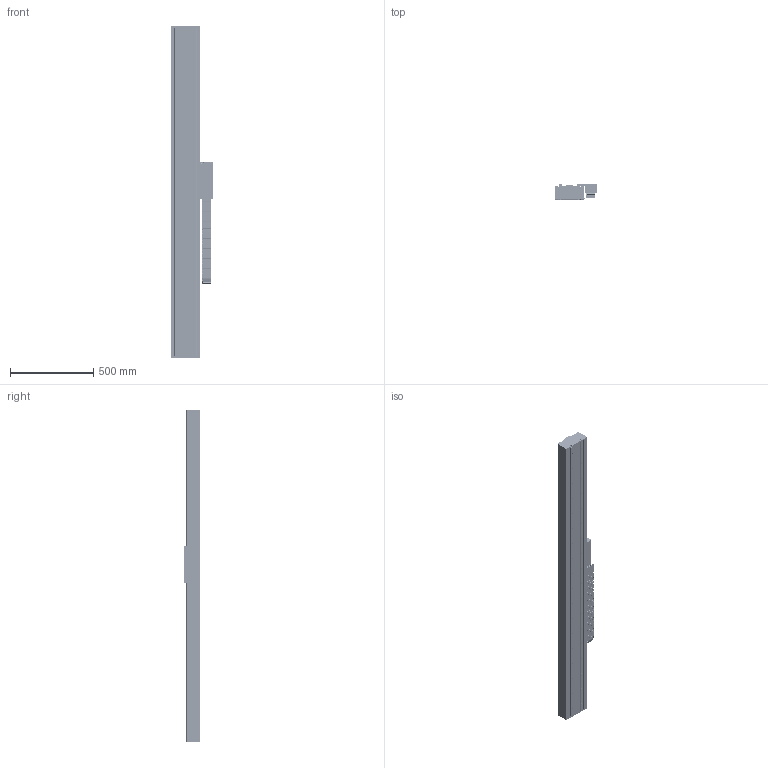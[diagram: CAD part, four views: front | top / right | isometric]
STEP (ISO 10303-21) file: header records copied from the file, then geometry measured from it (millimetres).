
FILE_DESCRIPTION (( 'STEP AP203' ), '1' );
FILE_NAME ('STF35120O-xC1B-Bxx.STEP', '2007-09-17T21:08:46', ( 'Yaskawa' ), ( 'Yaskawa' ), 'SwSTEP 2.0', 'SolidWorks 2007', '' );
FILE_SCHEMA (( 'CONFIG_CONTROL_DESIGN' ));
Length unit declared in the file: millimetre
Products named in the file (65): Bumper-Medium; STF2035-001C F35-120 Carriage; STF2035-007 End Stop; STF2035-002A-R2 F2035 Carriage Horn; STF2035-005-R2 Cable Router; SGLFW-35120AP; STCM-R1; STCM-001-R2 Cable Bracket; Serial Converter; STCM-006-R1 Upper E-chain Bracket; STF2035-009-02 Top Cover 2_O; 07.50.028.0_98; STF2035-010-02 Side Cover 2_O; 07.50.028.0_117; 07.50.028.0_99; 07.50.028.0_104; 07.50.028.0_106; 07.50.028.0_120; 07.50.028.0_113; 07.50.028.0_114; 07.50.028.0_121; 07.50.028.0_122; STF35BM Base_STF35120-014; STF35120O-xC1B-Bxx; STF35120 Base_STF35BM-014; SGLFM-35324AC; SGLFM-35756AC; End Stop with Bumper; B18.3.1M - 6 x 1.0 x 16 Hex SHCS -- 16NHX_B18.3.1M - 6 x 1.0 x 16 Hex SHCS -- 16NHX; Mult-SR15+580LY_014; STF35120 Complete Carriage; STF35-120 SSR15W Carriage-R2; STF2035-003 Renishaw Encoder Mount; RGH22B; STF2035-004 Flag; SSR15W Block; STCM-002-R2 Cable Assembly Front; STCM-003 Cable Assembly Bottom; STCM-004 Cable Assembly Side; STCM-005-R1 Cable Assembly Cover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
Assembly tree (135 placements, depth 4):
  STF35120O-xC1B-Bxx
    STF2035-006 Endplate  x2
    STF2035-009-02 Top Cover 2_O
    STCM-007 Lower E-Chain Bracket
    STF20120O
      07.50.028.0_105  x14
      07.50.028.0_117
      07.50.028.0_100
      07.50.028.0_106
      07.50.028.0_114
      07.50.028.0_122
      07.50.028.0_118
      07.50.028.0_111  x15
      07.50.028.0_96
      07.50.028.0_97
      07.50.028.0_101
      07.50.028.0_120
      07.50.028.0_108
      07.50.028.0_103
      07.50.028.0_104
      07.50.028.0_112
      07.50.028.0_98
      07.50.028.0_99
      07.50.028.0_115
      07.50.028.0_102
      07.50.028.0_107
      07.50.028.0_113
      07.50.028.0_110
      07.50.028.0_116
      07.50.028.0_109
      07.50.028.0_121
      07.50.028.0_123
      07.50.028.0_119
    STF35120 Complete Carriage
      B18.3.1M - 4 x 0.7 x 12 Hex SHCS -- 12CHX_B18.3.1M - 4 x 0.7 x 12 Hex SHCS -- 12CHX  x18
      B18.3.4M - 3 x 0.5 x 12 SBHCS --N_B18.3.4M - 3 x 0.5 x 12 SBHCS --N  x3
      B18.3.1M - 6 x 1.0 x 25 Hex SHCS -- 25CHX_B18.3.1M - 6 x 1.0 x 25 Hex SHCS -- 25CHX  x6
      STF35-120 SSR15W Carriage-R2
        STF2035-004 Flag
        STF2035-002A-R2 F2035 Carriage Horn  x2
        SSR15W Block  x4
        RGH22B
        STF2035-003 Renishaw Encoder Mount
        STF2035-005-R2 Cable Router
        SGLFW-35120AP
        STF2035-001C F35-120 Carriage
      STCM-R1
        B18.3.5M - 3 x 0.5 x 6 Socket FCHS  -- 6N_B18.3.5M - 3 x 0.5 x 6 Socket FCHS  -- 6N  x6
        STCM-005-R1 Cable Assembly Cover
        STCM-006-R1 Upper E-chain Bracket
        STCM-002-R2 Cable Assembly Front
        Serial Converter
        B18.3.4M - 3 x 0.5 x 12 SBHCS --N_B18.3.4M - 3 x 0.5 x 12 SBHCS --N  x4
        STCM-001-R2 Cable Bracket
        STCM-003 Cable Assembly Bottom
        STCM-004 Cable Assembly Side
    STF2035-010-02 Side Cover 2_O  x2
    STF35BM Base_STF35120-014
      End Stop with Bumper  x4
        STF2035-007 End Stop
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Bounding box: 254.2 x 94.7 x 1989.05 mm (x, y, z)
Volume: 11051974.4 mm3; surface area: 3776866.8 mm2
Topology: 188 solids, 188 shells, 9023 faces, 23012 edges, 14532 vertices
Faces by surface type: plane 4573, cylinder 3486, cone 820, torus 86, bspline 44, sphere 14
Entity records: 156984 total; most frequent: DIRECTION 26553, CARTESIAN_POINT 25778, ORIENTED_EDGE 24326, EDGE_CURVE 12163, AXIS2_PLACEMENT_3D 9415, VERTEX_POINT 7941, VECTOR 7723, LINE 7723
